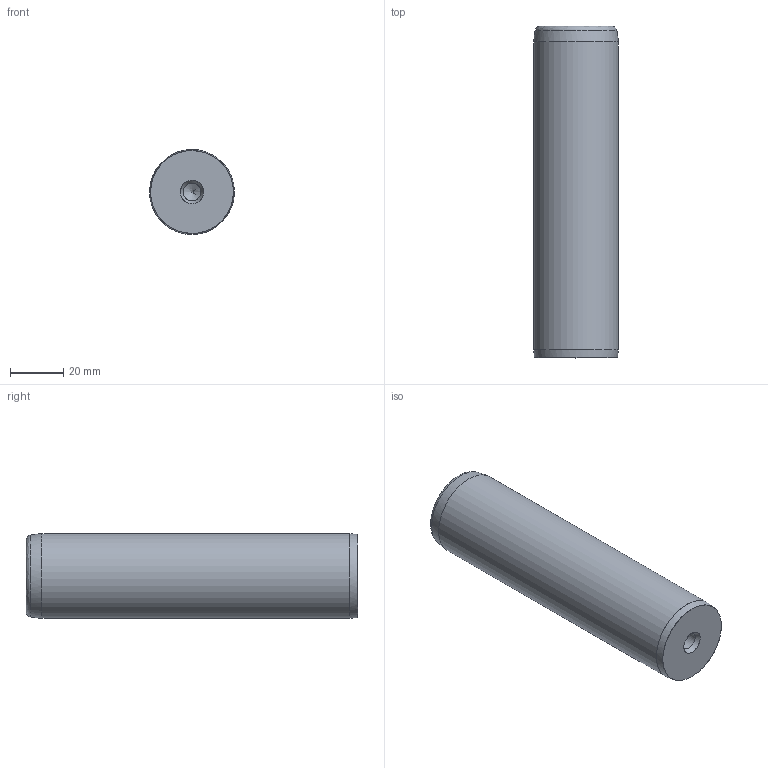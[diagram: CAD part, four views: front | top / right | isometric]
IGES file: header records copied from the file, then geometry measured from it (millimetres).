
Start section: Missler Software BP 521, 31674 Labege Cedex, France Tel   : +33 (0)5 61 00 03 00 Fax   : +33 (0)5 61 00 03 03 Email : sup.topsolid@topsolid.com
Global section: file name: D:\Cuma\D14\D14_32125.igs; native system: TopSolid v605250 Missler Software; preprocessor: IGES preprocessor v100000; date: 030120.193530; units: millimetre
Bounding box: 31.96 x 125 x 32 mm (x, y, z)
Surface area: 15105.1 mm2 (no closed solid volume)
Topology: 0 solids, 0 shells, 14 faces, 145 edges, 136 vertices
Faces by surface type: bspline 14
